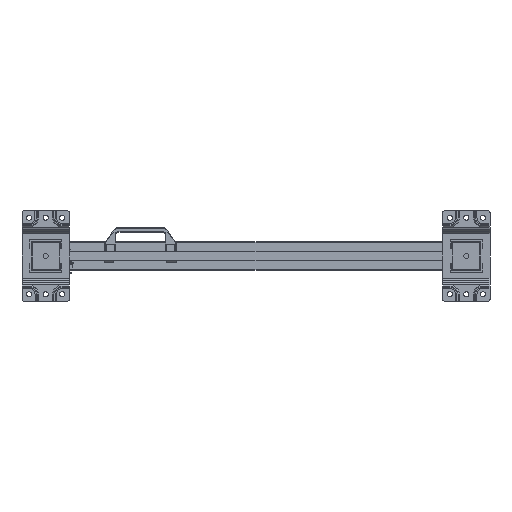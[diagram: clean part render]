
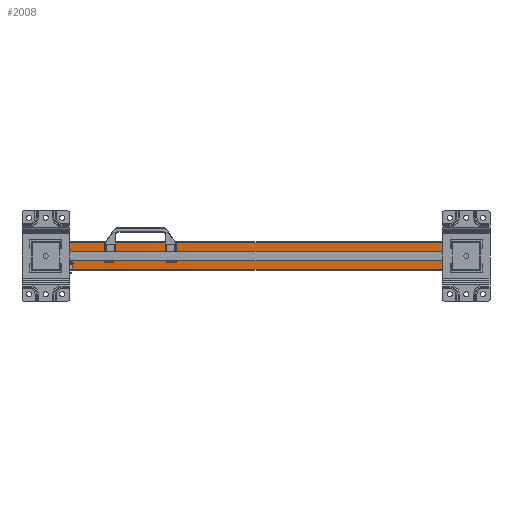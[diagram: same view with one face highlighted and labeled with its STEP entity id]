
A CAD part, front view. The second image highlights one B-rep face of the part: STEP entity #2008.
In plain terms, the highlighted planar face has unit normal (0, -1, 0).
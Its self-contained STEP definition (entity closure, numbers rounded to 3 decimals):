
#2008=ADVANCED_FACE('',(#5945),#5946,.T.);
#5945=FACE_OUTER_BOUND('',#12134,.T.);
#5946=PLANE('',#12135);
#12134=EDGE_LOOP('',(#19867,#19868,#19869,#19870));
#12135=AXIS2_PLACEMENT_3D('',#19871,#19872,#19873);
#19867=ORIENTED_EDGE('',*,*,#37314,.T.);
#19868=ORIENTED_EDGE('',*,*,#37315,.F.);
#19869=ORIENTED_EDGE('',*,*,#37316,.T.);
#19870=ORIENTED_EDGE('',*,*,#37304,.T.);
#19871=CARTESIAN_POINT('',(0.0,2039.0,30.));
#19872=DIRECTION('',(0.,-1.0,0.));
#19873=DIRECTION('',(-1.0,0.,0.0));
#37304=EDGE_CURVE('',#44474,#44472,#44475,.T.);
#37314=EDGE_CURVE('',#44472,#44487,#44488,.T.);
#37315=EDGE_CURVE('',#44489,#44487,#44490,.T.);
#37316=EDGE_CURVE('',#44489,#44474,#44491,.T.);
#44472=VERTEX_POINT('',#54990);
#44474=VERTEX_POINT('',#54993);
#44475=LINE('',#54994,#54995);
#44487=VERTEX_POINT('',#55013);
#44488=LINE('',#55014,#55015);
#44489=VERTEX_POINT('',#55016);
#44490=LINE('',#55017,#55018);
#44491=LINE('',#55019,#55020);
#54990=CARTESIAN_POINT('',(830.0,2039.0,-30.));
#54993=CARTESIAN_POINT('',(0.,2039.0,-30.));
#54994=CARTESIAN_POINT('',(0.,2039.0,-30.));
#54995=VECTOR('',#70836,10.0);
#55013=CARTESIAN_POINT('',(830.0,2039.0,30.));
#55014=CARTESIAN_POINT('',(830.0,2039.0,15.));
#55015=VECTOR('',#70843,1.0);
#55016=CARTESIAN_POINT('',(0.0,2039.0,30.));
#55017=CARTESIAN_POINT('',(0.0,2039.0,30.));
#55018=VECTOR('',#70844,10.0);
#55019=CARTESIAN_POINT('',(0.0,2039.0,30.));
#55020=VECTOR('',#70845,10.0);
#70836=DIRECTION('',(1.0,0.,0.));
#70843=DIRECTION('',(-0.0,0.,1.0));
#70844=DIRECTION('',(1.0,0.,0.));
#70845=DIRECTION('',(0.,0.,-1.0));
